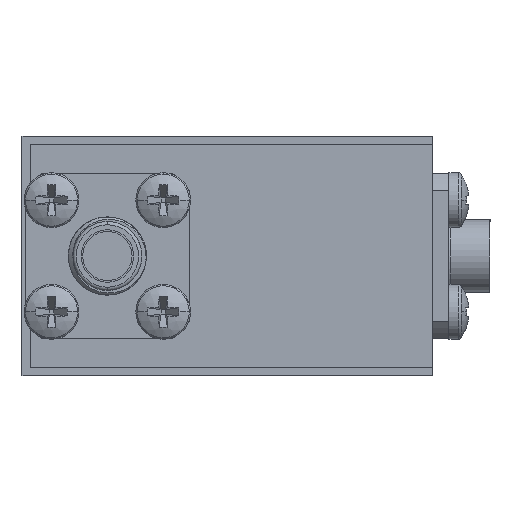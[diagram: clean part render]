
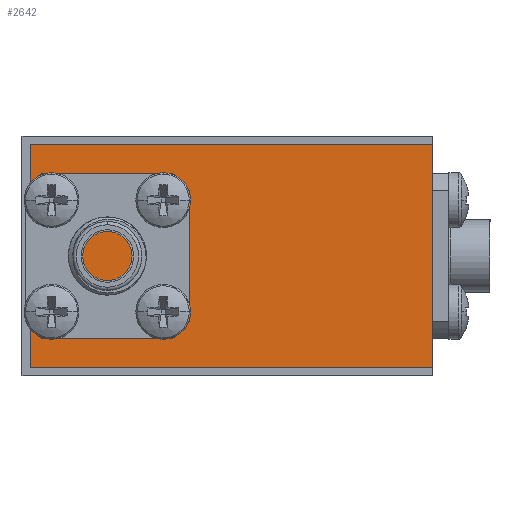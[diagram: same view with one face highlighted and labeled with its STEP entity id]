
A CAD part, left-side view. The second image highlights one B-rep face of the part: STEP entity #2642.
In plain terms, the highlighted planar face has unit normal (-1, 0, 0) as drawn and (1, 0, 0) by its records, which use the part's own axes.
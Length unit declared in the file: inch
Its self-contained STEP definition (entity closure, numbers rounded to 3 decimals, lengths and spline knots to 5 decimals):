
#16 = ORIENTED_EDGE ( 'NONE', *, *, #1885, .T. ) ;
#199 = CARTESIAN_POINT ( 'NONE',  ( 0.79, 0.74469, -0.34 ) ) ;
#249 = VECTOR ( 'NONE', #4063, 39.37008 ) ;
#348 = CARTESIAN_POINT ( 'NONE',  ( 0.79, 0.74469, 0.34 ) ) ;
#403 = CARTESIAN_POINT ( 'NONE',  ( 0.79, 0.74469, 0.34 ) ) ;
#412 = VERTEX_POINT ( 'NONE', #3379 ) ;
#446 = VERTEX_POINT ( 'NONE', #1164 ) ;
#500 = ORIENTED_EDGE ( 'NONE', *, *, #4353, .F. ) ;
#1129 = LINE ( 'NONE', #403, #2618 ) ;
#1161 = PLANE ( 'NONE',  #2540 ) ;
#1164 = CARTESIAN_POINT ( 'NONE',  ( 0.79, 0.74469, 0.34 ) ) ;
#1429 = VERTEX_POINT ( 'NONE', #4550 ) ;
#1540 = DIRECTION ( 'NONE',  ( 0., 0., -1. ) ) ;
#1590 = VECTOR ( 'NONE', #3536, 39.37008 ) ;
#1610 = LINE ( 'NONE', #4826, #4685 ) ;
#1730 = FACE_OUTER_BOUND ( 'NONE', #1977, .T. ) ;
#1756 = VERTEX_POINT ( 'NONE', #199 ) ;
#1809 = DIRECTION ( 'NONE',  ( 0., 0., -1. ) ) ;
#1885 = EDGE_CURVE ( 'NONE', #1429, #412, #1610, .T. ) ;
#1977 = EDGE_LOOP ( 'NONE', ( #2392, #4692, #500, #16 ) ) ;
#2142 = EDGE_CURVE ( 'NONE', #412, #1756, #3432, .T. ) ;
#2392 = ORIENTED_EDGE ( 'NONE', *, *, #2142, .T. ) ;
#2540 = AXIS2_PLACEMENT_3D ( 'NONE', #348, #2657, #4148 ) ;
#2618 = VECTOR ( 'NONE', #1540, 39.37008 ) ;
#2642 = ADVANCED_FACE ( 'NONE', ( #1730 ), #1161, .F. ) ;
#2652 = EDGE_CURVE ( 'NONE', #446, #1756, #1129, .T. ) ;
#2657 = DIRECTION ( 'NONE',  ( -1., 0., 0. ) ) ;
#3379 = CARTESIAN_POINT ( 'NONE',  ( 0.79, -0.48031, -0.34 ) ) ;
#3432 = LINE ( 'NONE', #4035, #249 ) ;
#3536 = DIRECTION ( 'NONE',  ( 0., 1., 0. ) ) ;
#3705 = LINE ( 'NONE', #4727, #1590 ) ;
#4035 = CARTESIAN_POINT ( 'NONE',  ( 0.79, 0.74469, -0.34 ) ) ;
#4063 = DIRECTION ( 'NONE',  ( 0., 1., 0. ) ) ;
#4148 = DIRECTION ( 'NONE',  ( 0., -1., 0. ) ) ;
#4353 = EDGE_CURVE ( 'NONE', #1429, #446, #3705, .T. ) ;
#4550 = CARTESIAN_POINT ( 'NONE',  ( 0.79, -0.48031, 0.34 ) ) ;
#4685 = VECTOR ( 'NONE', #1809, 39.37008 ) ;
#4692 = ORIENTED_EDGE ( 'NONE', *, *, #2652, .F. ) ;
#4727 = CARTESIAN_POINT ( 'NONE',  ( 0.79, 0.74469, 0.34 ) ) ;
#4826 = CARTESIAN_POINT ( 'NONE',  ( 0.79, -0.48031, 0.34 ) ) ;
